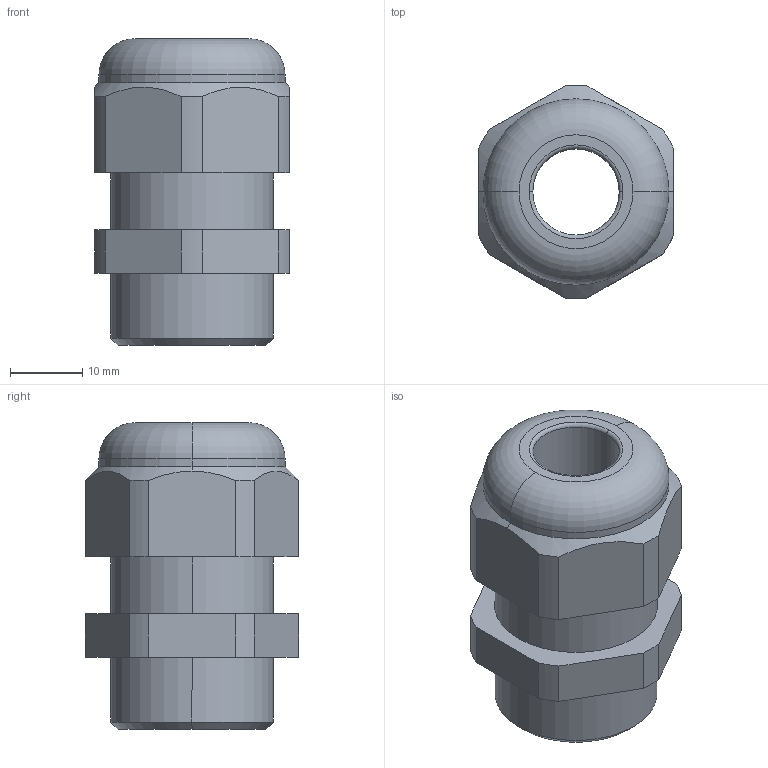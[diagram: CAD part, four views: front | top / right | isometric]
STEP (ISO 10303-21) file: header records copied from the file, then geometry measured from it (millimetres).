
FILE_DESCRIPTION (( 'STEP AP203' ), '1' );
FILE_NAME ('50.016 PA-R.STEP', '2006-11-08T07:20:26', ( ' ' ), ( '' ), 'SwSTEP 2.0', 'SolidWorks 2005278', '' );
FILE_SCHEMA (( 'CONFIG_CONTROL_DESIGN' ));
Length unit declared in the file: millimetre
Products named in the file (1): 50.016 PA-R
Bounding box: 27 x 29.58 x 42.5 mm (x, y, z)
Volume: 16553.9 mm3; surface area: 6191.7 mm2
Topology: 1 solids, 1 shells, 84 faces, 218 edges, 142 vertices
Faces by surface type: plane 54, cylinder 20, torus 6, cone 4
Entity records: 2713 total; most frequent: CARTESIAN_POINT 537, ORIENTED_EDGE 436, DIRECTION 434, EDGE_CURVE 218, VECTOR 156, LINE 156, VERTEX_POINT 142, AXIS2_PLACEMENT_3D 139
